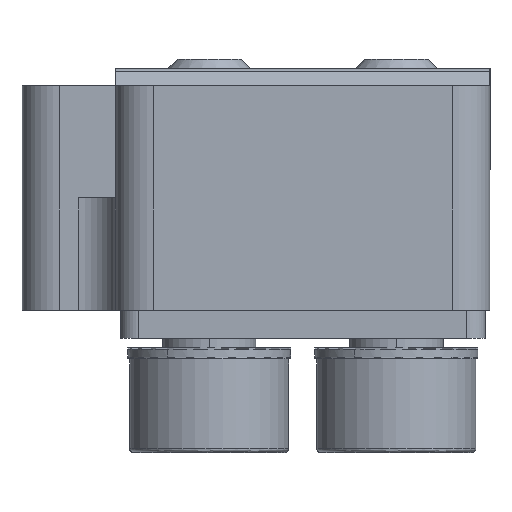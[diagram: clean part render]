
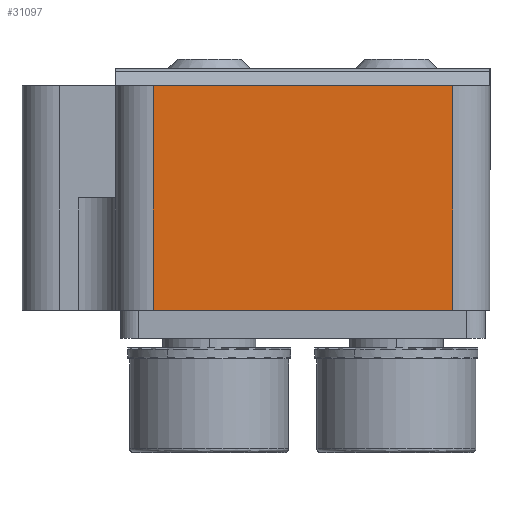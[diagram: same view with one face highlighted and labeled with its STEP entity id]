
A CAD part, front view. The second image highlights one B-rep face of the part: STEP entity #31097.
In plain terms, the highlighted planar face has unit normal (0, -1, 0).
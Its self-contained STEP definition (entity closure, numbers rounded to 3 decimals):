
#594 = CARTESIAN_POINT ( 'NONE',  ( -8., -36., 6. ) ) ;
#851 = PLANE ( 'NONE',  #6301 ) ;
#1012 = VERTEX_POINT ( 'NONE', #28856 ) ;
#2357 = VERTEX_POINT ( 'NONE', #12989 ) ;
#4657 = EDGE_CURVE ( 'NONE', #20409, #23739, #9353, .T. ) ;
#5379 = VECTOR ( 'NONE', #18399, 1000. ) ;
#5467 = LINE ( 'NONE', #27660, #34297 ) ;
#5834 = VECTOR ( 'NONE', #34440, 1000. ) ;
#6110 = ORIENTED_EDGE ( 'NONE', *, *, #22797, .F. ) ;
#6301 = AXIS2_PLACEMENT_3D ( 'NONE', #23231, #26091, #11875 ) ;
#7338 = VECTOR ( 'NONE', #9409, 1000. ) ;
#9353 = LINE ( 'NONE', #15284, #5834 ) ;
#9409 = DIRECTION ( 'NONE',  ( 0., 0., 1. ) ) ;
#10462 = CARTESIAN_POINT ( 'NONE',  ( 8., -36., 6. ) ) ;
#10868 = LINE ( 'NONE', #594, #7338 ) ;
#11875 = DIRECTION ( 'NONE',  ( 0., 0., 1. ) ) ;
#12989 = CARTESIAN_POINT ( 'NONE',  ( -8., -36., 0. ) ) ;
#15284 = CARTESIAN_POINT ( 'NONE',  ( 0., -36., 12. ) ) ;
#16043 = ORIENTED_EDGE ( 'NONE', *, *, #4657, .F. ) ;
#16835 = DIRECTION ( 'NONE',  ( 1., 0., 0. ) ) ;
#18399 = DIRECTION ( 'NONE',  ( 0., 0., 1. ) ) ;
#20137 = EDGE_LOOP ( 'NONE', ( #6110, #23916, #25411, #16043 ) ) ;
#20409 = VERTEX_POINT ( 'NONE', #30052 ) ;
#21116 = EDGE_CURVE ( 'NONE', #2357, #1012, #5467, .T. ) ;
#22797 = EDGE_CURVE ( 'NONE', #2357, #20409, #10868, .T. ) ;
#23231 = CARTESIAN_POINT ( 'NONE',  ( -8., -36., 0. ) ) ;
#23739 = VERTEX_POINT ( 'NONE', #26232 ) ;
#23916 = ORIENTED_EDGE ( 'NONE', *, *, #21116, .T. ) ;
#24195 = LINE ( 'NONE', #10462, #5379 ) ;
#25411 = ORIENTED_EDGE ( 'NONE', *, *, #35244, .T. ) ;
#26091 = DIRECTION ( 'NONE',  ( 0., 1., 0. ) ) ;
#26232 = CARTESIAN_POINT ( 'NONE',  ( 8., -36., 12. ) ) ;
#27660 = CARTESIAN_POINT ( 'NONE',  ( -2.5, -36., 0. ) ) ;
#28856 = CARTESIAN_POINT ( 'NONE',  ( 8., -36., 0. ) ) ;
#30052 = CARTESIAN_POINT ( 'NONE',  ( -8., -36., 12. ) ) ;
#31097 = ADVANCED_FACE ( 'NONE', ( #36316 ), #851, .F. ) ;
#34297 = VECTOR ( 'NONE', #16835, 1000. ) ;
#34440 = DIRECTION ( 'NONE',  ( 1., 0., 0. ) ) ;
#35244 = EDGE_CURVE ( 'NONE', #1012, #23739, #24195, .T. ) ;
#36316 = FACE_OUTER_BOUND ( 'NONE', #20137, .T. ) ;
